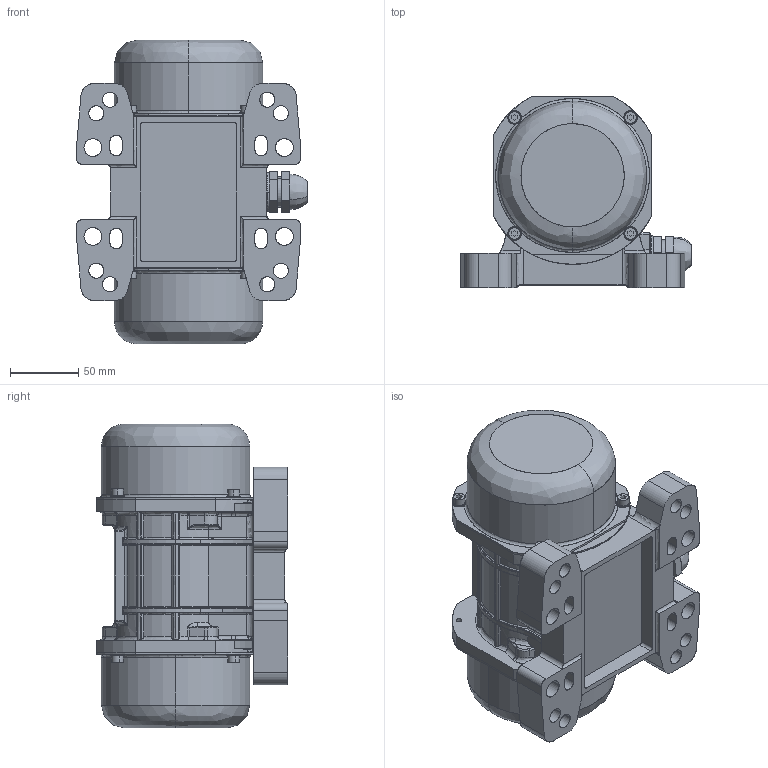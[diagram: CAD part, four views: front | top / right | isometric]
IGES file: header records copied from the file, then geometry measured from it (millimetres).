
Start section: SolidWorks IGES file using analytic representation for surfaces
Global section: file name: C:\Users\UT14\Desktop\DISEGNI_DI_INGOMBRO_RICCARDO\IGES\23-A0\MVE200-3-36_MVE90-15-18-23A0.IGS; native system: SolidWorks 2016; preprocessor: SolidWorks 2016; author: UT14; date: 180606.165303; units: millimetre
Bounding box: 169 x 140 x 222 mm (x, y, z)
Surface area: 167916.3 mm2 (no closed solid volume)
Topology: 0 solids, 0 shells, 955 faces, 10852 edges, 10780 vertices
Faces by surface type: bspline 571, revolution 384
